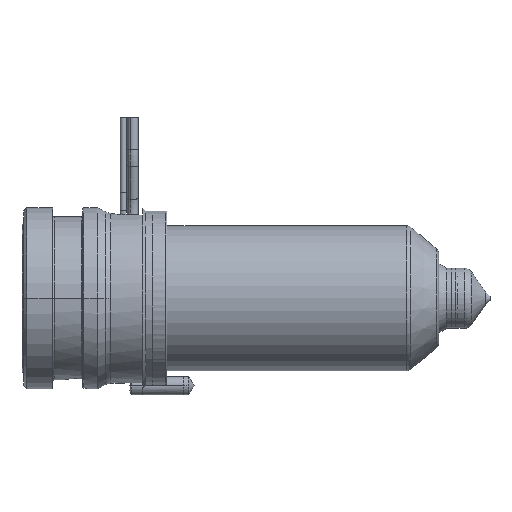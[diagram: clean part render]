
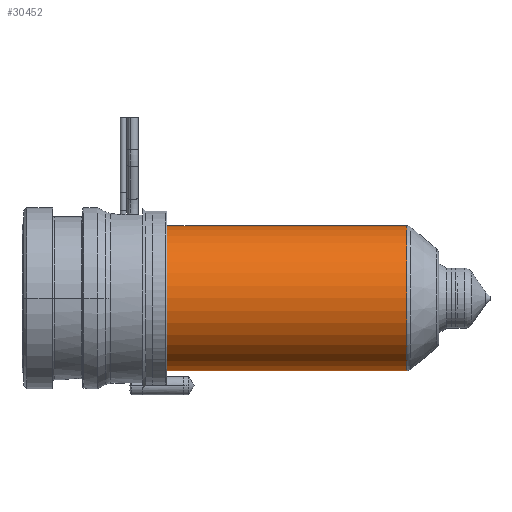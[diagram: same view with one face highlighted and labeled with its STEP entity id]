
A CAD part, left-side view. The second image highlights one B-rep face of the part: STEP entity #30452.
In plain terms, the highlighted cylindrical face has radius 12 mm (diameter 24 mm), a partial arc.
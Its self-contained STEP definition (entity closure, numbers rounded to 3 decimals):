
#29937=CARTESIAN_POINT('',(0.,-24.,0.));
#29938=DIRECTION('',(0.,1.,0.));
#29939=DIRECTION('',(0.,0.,-1.));
#29940=AXIS2_PLACEMENT_3D('',#29937,#29938,#29939);
#29945=DIRECTION('',(0.,1.,0.));
#29946=VECTOR('',#29945,39.736);
#29947=CARTESIAN_POINT('',(0.,-63.736,12.));
#29948=LINE('',#29947,#29946);
#29960=DIRECTION('',(0.,1.,0.));
#29961=VECTOR('',#29960,39.736);
#29962=CARTESIAN_POINT('',(0.,-63.736,-12.));
#29963=LINE('',#29962,#29961);
#29991=CARTESIAN_POINT('',(0.,-63.736,0.));
#29992=DIRECTION('',(0.,-1.,0.));
#29993=DIRECTION('',(0.,0.,1.));
#29994=AXIS2_PLACEMENT_3D('',#29991,#29992,#29993);
#30321=CARTESIAN_POINT('',(0.,-63.736,12.));
#30322=CARTESIAN_POINT('',(0.,-24.,12.));
#30323=VERTEX_POINT('',#30321);
#30324=VERTEX_POINT('',#30322);
#30325=CARTESIAN_POINT('',(0.,-63.736,-12.));
#30326=CARTESIAN_POINT('',(0.,-24.,-12.));
#30327=VERTEX_POINT('',#30325);
#30328=VERTEX_POINT('',#30326);
#30438=CARTESIAN_POINT('',(0.,-17.125,0.));
#30439=DIRECTION('',(0.,-1.,0.));
#30440=DIRECTION('',(0.,0.,1.));
#30441=AXIS2_PLACEMENT_3D('',#30438,#30439,#30440);
#30442=CYLINDRICAL_SURFACE('',#30441,12.);
#30444=ORIENTED_EDGE('',*,*,#30443,.F.);
#30446=ORIENTED_EDGE('',*,*,#30445,.T.);
#30448=ORIENTED_EDGE('',*,*,#30447,.T.);
#30449=ORIENTED_EDGE('',*,*,#30431,.T.);
#30450=EDGE_LOOP('',(#30444,#30446,#30448,#30449));
#30451=FACE_OUTER_BOUND('',#30450,.F.);
#30452=ADVANCED_FACE('',(#30451),#30442,.T.);
#29941=CIRCLE('',#29940,12.);
#29995=CIRCLE('',#29994,12.);
#30431=EDGE_CURVE('',#30328,#30324,#29941,.T.);
#30443=EDGE_CURVE('',#30323,#30324,#29948,.T.);
#30445=EDGE_CURVE('',#30323,#30327,#29995,.T.);
#30447=EDGE_CURVE('',#30327,#30328,#29963,.T.);
